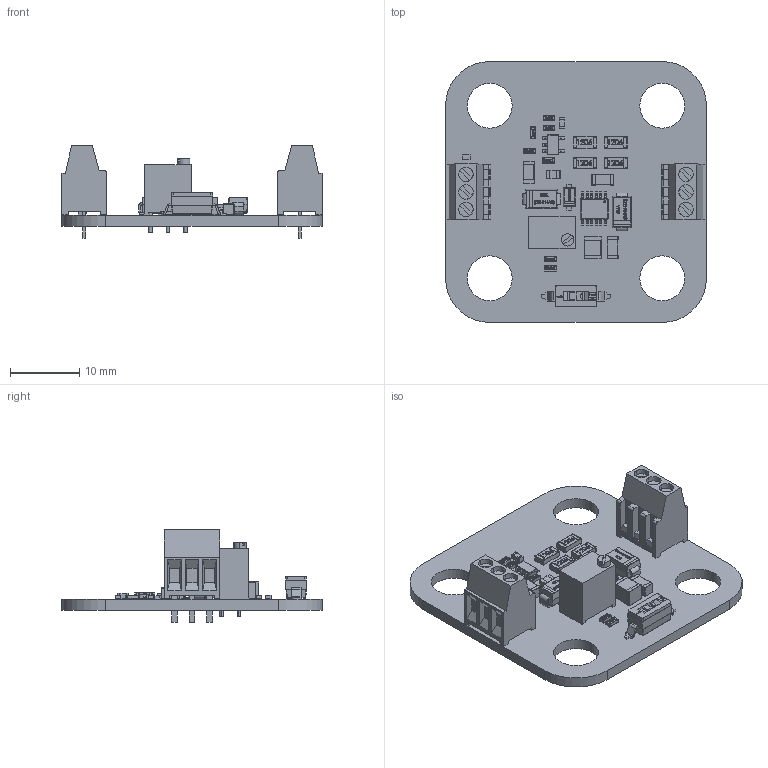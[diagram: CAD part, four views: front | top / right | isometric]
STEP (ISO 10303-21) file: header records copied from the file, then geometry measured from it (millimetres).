
FILE_DESCRIPTION (( 'STEP AP214' ), '1' );
FILE_NAME ('DRV100_V2.STEP', '2018-12-06T15:35:13', ( '' ), ( '' ), 'SwSTEP 2.0', 'SolidWorks 2015', '' );
FILE_SCHEMA (( 'AUTOMOTIVE_DESIGN' ));
Length unit declared in the file: millimetre
Products named in the file (51): DRV100_V2_1_7; DRV100_V2_10; DRV100_V2_1_14; DRV100_V2_1_12; DRV100_V2_5; DRV100_V2_13; DRV100_V2_1_6; DRV100_V2_1_9; DRV100_V2_1_4; DRV100_V2_12; DRV100_V2_4; DRV100_V2_1_24; DRV100_V2_1; DRV100_V2_1_15; DRV100_V2_1_2; DRV100_V2_1_16; DRV100_V2_1_25; DRV100_V2_11; DRV100_V2_6; DRV100_V2_1_22; DRV100_V2_1_23; DRV100_V2; DRV100_V2_1_13; DRV100_V2_1_10; DRV100_V2_2; DRV100_V2_1_28; DRV100_V2_9; DRV100_V2_1_21; DRV100_V2_16; DRV100_V2_1_5; DRV100_V2_1_27; DRV100_V2_1_3; DRV100_V2_1_20; DRV100_V2_1_8; DRV100_V2_19; DRV100_V2_7; DRV100_V2_1_29; DRV100_V2_1_30; DRV100_V2_18; DRV100_V2_3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
Assembly tree (64 placements, depth 4):
  DRV100_V2
    DRV100_V2
    DRV100_V2_1
      DRV100_V2_2
      DRV100_V2_3
      DRV100_V2_4
      DRV100_V2_5
    DRV100_V2_1_2
      DRV100_V2_6
    DRV100_V2_1_3
      DRV100_V2_6
    DRV100_V2_1_4
      DRV100_V2_6
    DRV100_V2_1_5
      DRV100_V2_6
    DRV100_V2_1_6
      DRV100_V2_7
    DRV100_V2_1_7
      DRV100_V2_7
    DRV100_V2_1_8
      DRV100_V2_6
    DRV100_V2_1_9
      DRV100_V2_8
    DRV100_V2_1_10
      DRV100_V2_7
    DRV100_V2_1_11
      DRV100_V2_7
    DRV100_V2_1_12
      DRV100_V2_6
    DRV100_V2_1_13
      DRV100_V2_6
    DRV100_V2_1_14
      DRV100_V2_9
    DRV100_V2_1_15
      DRV100_V2_9
    DRV100_V2_1_16
      DRV100_V2_1_17
        DRV100_V2_10
        DRV100_V2_11  x2
    DRV100_V2_1_18
      DRV100_V2_1_19
        DRV100_V2_12
        DRV100_V2_13
    DRV100_V2_1_20
      DRV100_V2_14
    DRV100_V2_1_21
      DRV100_V2_1_22
        DRV100_V2_15
    DRV100_V2_1_23
      DRV100_V2_16
    DRV100_V2_1_24
      DRV100_V2_17
    DRV100_V2_1_25
      DRV100_V2_16
    DRV100_V2_1_26
      DRV100_V2_18
    DRV100_V2_1_27
      DRV100_V2_19
    DRV100_V2_1_28
      DRV100_V2_20
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Bounding box: 37.8 x 37.8 x 13.4 mm (x, y, z)
Volume: 3189.9 mm3; surface area: 4898.3 mm2
Topology: 64 solids, 78 shells, 2465 faces, 6388 edges, 4119 vertices
Faces by surface type: plane 1352, bspline 568, cylinder 489, torus 38, cone 10, sphere 8
Entity records: 62254 total; most frequent: CARTESIAN_POINT 16585, ORIENTED_EDGE 6507, DIRECTION 5768, EDGE_CURVE 3288, VERTEX_POINT 2116, LINE 2064, VECTOR 2064, AXIS2_PLACEMENT_3D 1852
